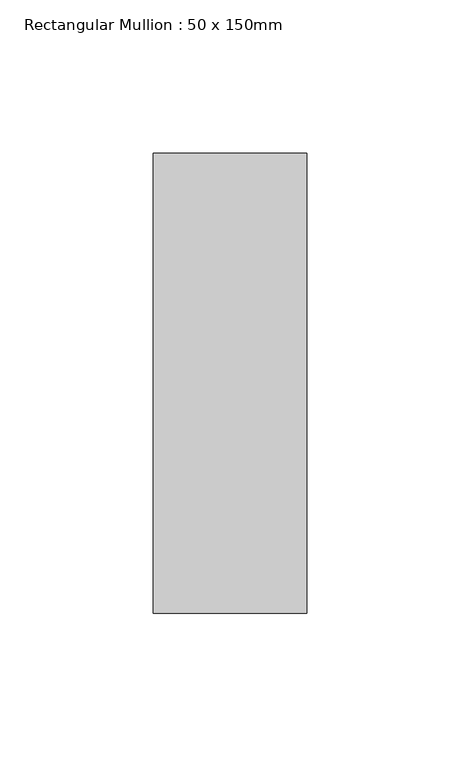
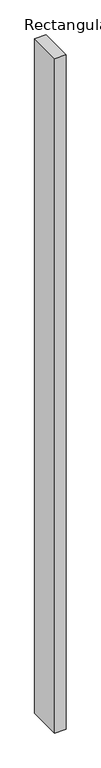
"""IFC4 building model written with IfcOpenShell, lengths in millimetres: member geometry, Rectangular Mullion : 50 x 150mm."""

from ifc_helpers import new_model, si_unit, frame, origin, place, context, project, spatial, polyline, outline, extrude, source, transform, mapped, element, save


def rectangular_mullion_50_x_150mm_9eebf7fc(model_context):
    return source(origin(), model_context, "Body", "SweptSolid", [
        extrude(outline(polyline([(0.0, 75.0), (0.0, -75.0), (-50.0, -75.0), (-50.0, 75.0), (0.0, 75.0)])), frame((0.0, 0.0, -3087.4038106), z_axis=(0.0, 0.0, 1.0), x_axis=(1.0, 0.0, 0.0)), (0.0, 0.0, 1.0), 3087.4038106),
    ])


if __name__ == "__main__":
    model = new_model("IFC4")
    model_context = context("Model", 3, world=origin())
    ifc_project = project(units=[si_unit("LENGTHUNIT", "METRE", prefix="MILLI")], contexts=[model_context])
    site = spatial("IfcSite", under=ifc_project)
    building = spatial("IfcBuilding", under=site)
    placement = place(None, origin())
    rectangular_mullion_50_x_150mm_shape = rectangular_mullion_50_x_150mm_9eebf7fc(model_context)
    element("IfcMember", 1, ObjectType="Rectangular Mullion : 50 x 150mm", at=placement, inside=building, context=model_context, shape_type="MappedRepresentation", body=[
        mapped(rectangular_mullion_50_x_150mm_shape, transform((0.0, 0.0, 0.0), x_axis=(1.0, 0.0, 0.0), y_axis=(0.0, 1.0, 0.0), z_axis=(0.0, 0.0, 1.0))),
    ])
    save(model, "model.ifc")
